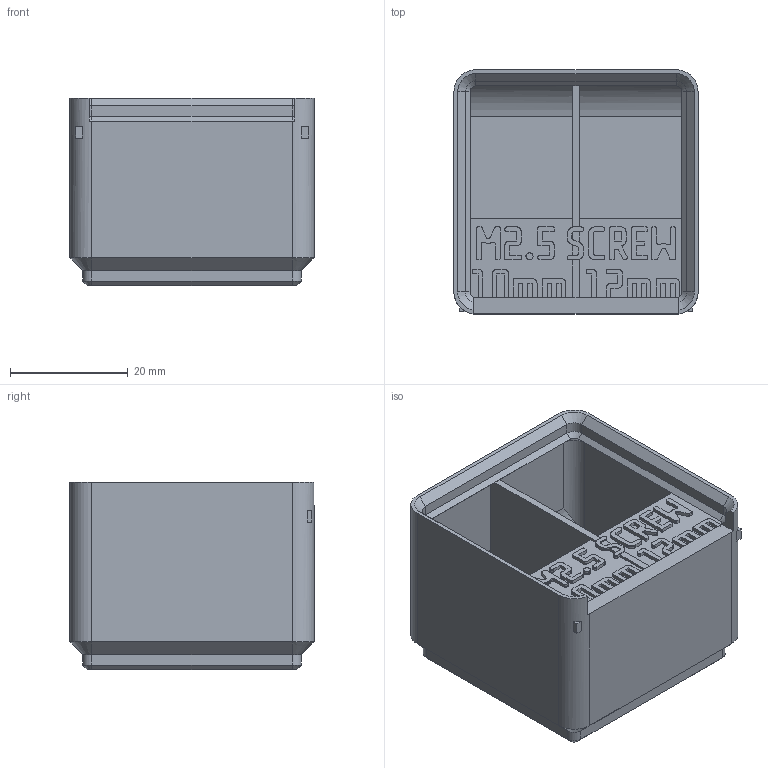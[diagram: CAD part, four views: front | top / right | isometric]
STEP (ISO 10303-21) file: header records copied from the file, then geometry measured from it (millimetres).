
FILE_DESCRIPTION(('Open CASCADE Model'),'2;1');
FILE_NAME('Open CASCADE Shape Model','2026-11-03T10:34:51',('Author'),( 'Open CASCADE'),'Open CASCADE STEP processor 8.0','build123d', 'Unknown');
FILE_SCHEMA(('AUTOMOTIVE_DESIGN { 1 0 10303 214 1 1 1 1 }'));
Products named in the file (1): COMPOUND
Bounding box: 41.5 x 41.5 x 31.9 mm (x, y, z)
Volume: 15350.4 mm3; surface area: 14878 mm2
Topology: 1 solids, 1 shells, 1763 faces, 5229 edges, 3470 vertices
Faces by surface type: plane 1725, cone 20, cylinder 18
Entity records: 122010 total; most frequent: CARTESIAN_POINT 25641, DIRECTION 15068, LINE 11360, VECTOR 11360, ORIENTED_EDGE 10458, PCURVE 10458, DEFINITIONAL_REPRESENTATION 10458, EDGE_CURVE 5229
